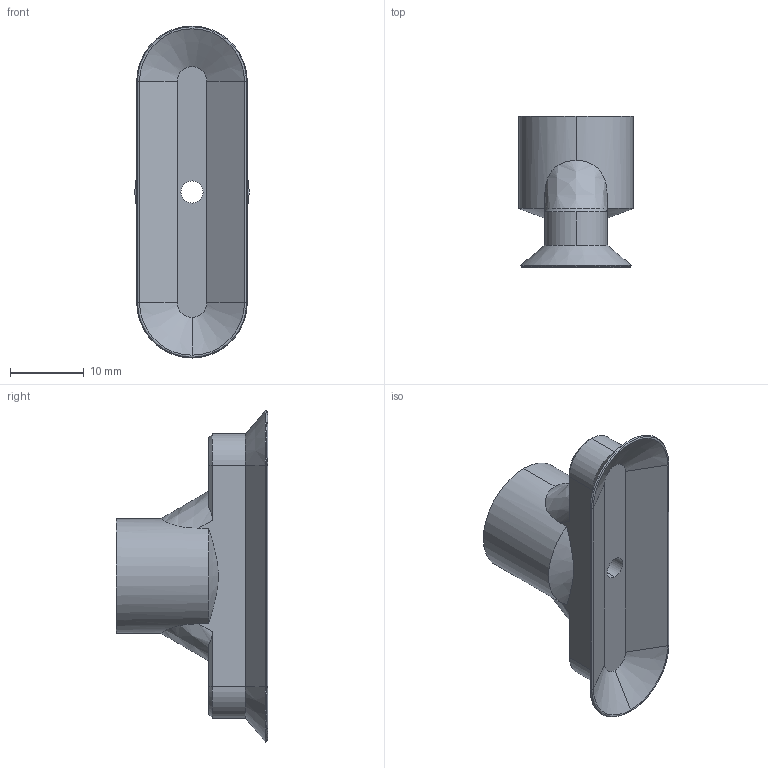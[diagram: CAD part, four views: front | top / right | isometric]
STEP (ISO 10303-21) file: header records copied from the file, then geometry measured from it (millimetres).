
FILE_DESCRIPTION (( 'STEP AP214' ), '1' );
FILE_NAME ('VS-PO1545.STEP', '2019-11-13T09:16:47', ( '微软用户' ), ( '微软中国' ), 'SwSTEP 2.0', 'SolidWorks 2016', '' );
FILE_SCHEMA (( 'AUTOMOTIVE_DESIGN' ));
Length unit declared in the file: millimetre
Products named in the file (1): VS-PO1545
Bounding box: 15.5 x 20.5 x 45 mm (x, y, z)
Volume: 3241.4 mm3; surface area: 3122.4 mm2
Topology: 1 solids, 1 shells, 57 faces, 130 edges, 80 vertices
Faces by surface type: plane 21, cylinder 19, cone 13, bspline 4
Entity records: 1798 total; most frequent: CARTESIAN_POINT 472, DIRECTION 280, ORIENTED_EDGE 260, EDGE_CURVE 130, AXIS2_PLACEMENT_3D 108, VERTEX_POINT 80, LINE 64, EDGE_LOOP 64
